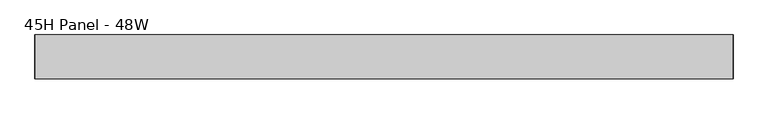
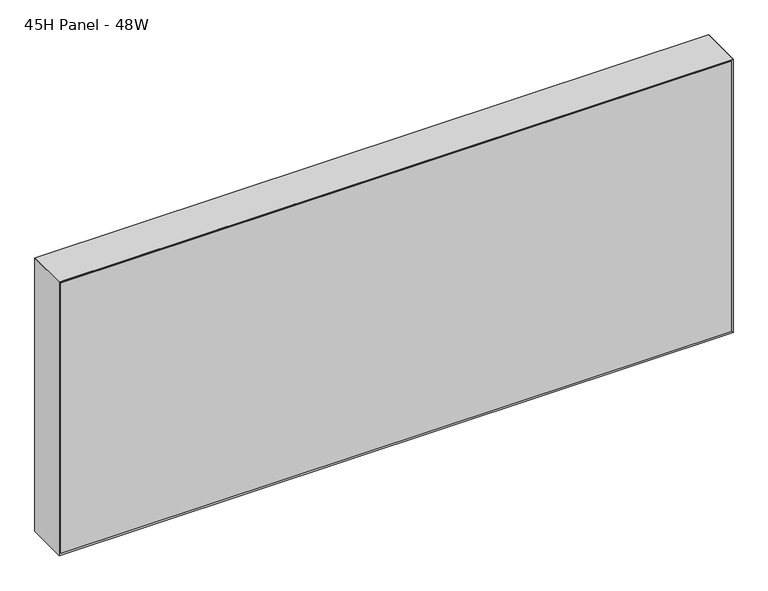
"""IFC4 building model written with IfcOpenShell, lengths in millimetres: furniture geometry, Steelcase - Montage - Frame - 20H - Enhanced Standard - Single Stack-On : 45H Panel - 48W."""

from ifc_helpers import new_model, si_unit, frame, origin, place, context, project, spatial, polyline, outline, extrude, faceted_brep, source, transform, mapped, element, save


def furniture_45h_panel_48w_98b73698(model_context):
    return source(origin(), model_context, "Body", "SolidModel", [
        faceted_brep([(1209.6750027, 31.7500194, 1650.9999516), (9.5250028, 31.7500194, 1650.9999516), (9.5250028, 31.7500194, 1146.175), (1209.6750027, 31.7500194, 1146.175), (1216.025, 38.1000194, 1657.3499516), (1216.025, 38.1000194, 1139.825), (3.175, 38.1000194, 1139.825), (3.175, 38.1000194, 1657.3499516)], [[[0, 1, 2, 3]], [[4, 5, 6, 7]], [[4, 0, 3, 5]], [[5, 3, 2, 6]], [[6, 2, 1, 7]], [[7, 1, 0, 4]]]),
        faceted_brep([(1209.6750027, -31.7500194, 1650.9999516), (1209.6750027, -31.7500194, 1146.175), (9.5250028, -31.7500194, 1146.175), (9.5250028, -31.7500194, 1650.9999516), (1216.025, -38.1000194, 1657.3499516), (3.175, -38.1000194, 1657.3499516), (3.175, -38.1000194, 1139.825), (1216.025, -38.1000194, 1139.825)], [[[0, 1, 2, 3]], [[4, 5, 6, 7]], [[4, 7, 1, 0]], [[7, 6, 2, 1]], [[6, 5, 3, 2]], [[5, 4, 0, 3]]]),
        faceted_brep([(1219.2, -38.1000015, 1136.65), (1219.2, 38.1000015, 1136.65), (1219.2, 38.1000015, 1660.5249516), (1219.2, -38.1000106, 1660.5249515), (0.0, 38.1000015, 1136.65), (0.0, -38.1000015, 1136.65), (0.0, -38.1000015, 1660.5249516), (0.0, 38.1000015, 1660.5249516), (6.3500484, 31.749953, 1143.0000484), (1212.8499879, 31.749953, 1143.0000484), (6.35, -31.749953, 1143.0000484), (1212.8499879, -31.749953, 1143.0000484), (6.3500165, 31.749985, 1654.174935), (6.3500006, -31.7500009, 1654.1749031), (1212.8499879, -31.7499979, 1654.1749031), (1212.8499879, 31.7499889, 1654.1749394)], [[[0, 1, 2, 3]], [[4, 5, 6, 7]], [[1, 0, 5, 4]], [[1, 4, 8, 9]], [[9, 8, 10, 11]], [[5, 0, 11, 10]], [[4, 7, 12, 8]], [[6, 5, 10, 13]], [[10, 8, 12, 13]], [[9, 11, 14, 15]], [[0, 3, 14, 11]], [[2, 1, 9, 15]], [[3, 2, 15, 14]], [[7, 6, 13, 12]]]),
        faceted_brep([(1219.2, -38.1000015, 1660.5249516), (0.0, -38.1000015, 1660.5249516), (6.3500484, -31.749953, 1654.1749031), (1212.8499516, -31.749953, 1654.1749031), (6.3500484, 31.749953, 1654.1749031), (1212.8499516, 31.749953, 1654.1749031), (0.0, 38.1000015, 1660.5249516), (1219.2, 38.1000015, 1660.5249516)], [[[0, 1, 2, 3]], [[3, 2, 4, 5]], [[6, 7, 5, 4]], [[1, 0, 7, 6]], [[2, 1, 6, 4]], [[0, 3, 5, 7]]]),
        extrude(outline(polyline([(1212.8499879, 31.7500016), (1212.8499879, -31.7499985), (6.35, -31.7499985), (6.35, 31.7500016), (1212.8499879, 31.7500016)])), frame((0.0, 0.0, 1142.9952145), z_axis=(0.0, 0.0, 1.0), x_axis=(1.0, 0.0, 0.0)), (0.0, 0.0, 1.0), 511.1796886),
    ])


if __name__ == "__main__":
    model = new_model("IFC4")
    model_context = context("Model", 3, world=origin())
    ifc_project = project(units=[si_unit("LENGTHUNIT", "METRE", prefix="MILLI")], contexts=[model_context])
    site = spatial("IfcSite", under=ifc_project)
    building = spatial("IfcBuilding", under=site)
    placement = place(None, origin())
    furniture_45h_panel_48w_shape = furniture_45h_panel_48w_98b73698(model_context)
    element("IfcFurniture", 1, ObjectType="Steelcase - Montage - Frame - 20H - Enhanced Standard - Single Stack-On : 45H Panel - 48W", at=placement, inside=building, context=model_context, shape_type="MappedRepresentation", body=[
        mapped(furniture_45h_panel_48w_shape, transform((0.0, 0.0, 0.0), x_axis=(1.0, 0.0, 0.0), y_axis=(0.0, 1.0, 0.0), z_axis=(0.0, 0.0, 1.0))),
    ])
    save(model, "model.ifc")
